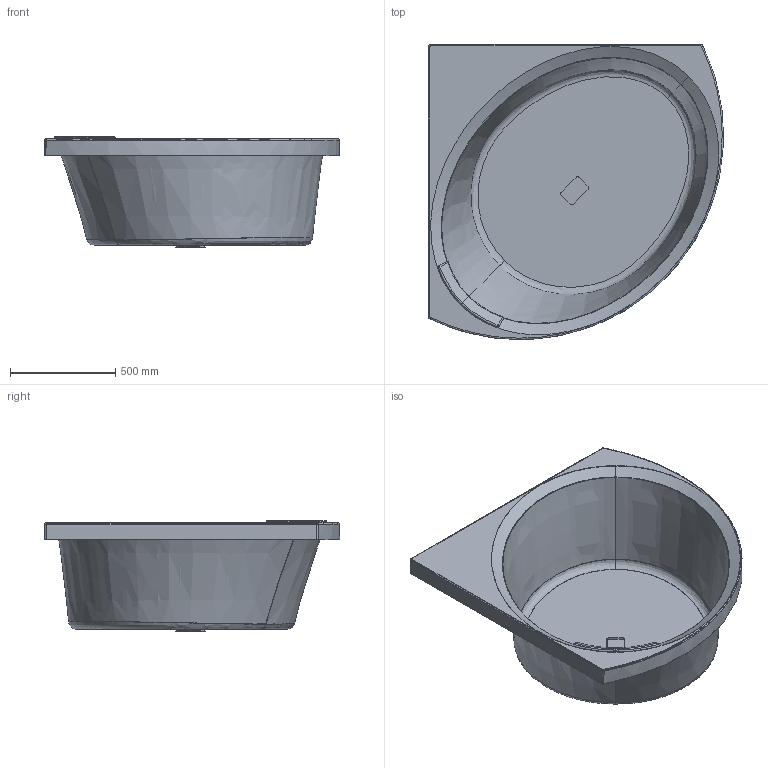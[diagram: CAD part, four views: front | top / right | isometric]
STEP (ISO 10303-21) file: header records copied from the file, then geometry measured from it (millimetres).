
FILE_DESCRIPTION(('STEP AP203'),'2;1');
FILE_NAME('DIVY140140O0-A0K.stp','2016-02-24T17:31:42',(''),(''),'2014.1.117','THINKDESIGN','');
FILE_SCHEMA(('CONFIG_CONTROL_DESIGN'));
Length unit declared in the file: millimetre
Bounding box: 1399.06 x 1399.06 x 524.28 mm (x, y, z)
Volume: 10846131.7 mm3; surface area: 7077680.4 mm2
Topology: 2 solids, 2 shells, 94 faces, 230 edges, 150 vertices
Faces by surface type: bspline 58, plane 18, cylinder 18
Entity records: 9605 total; most frequent: CARTESIAN_POINT 7692, ORIENTED_EDGE 416, DIRECTION 226, EDGE_CURVE 208, VERTEX_POINT 122, EDGE_LOOP 98, FACE_OUTER_BOUND 94, ADVANCED_FACE 94
